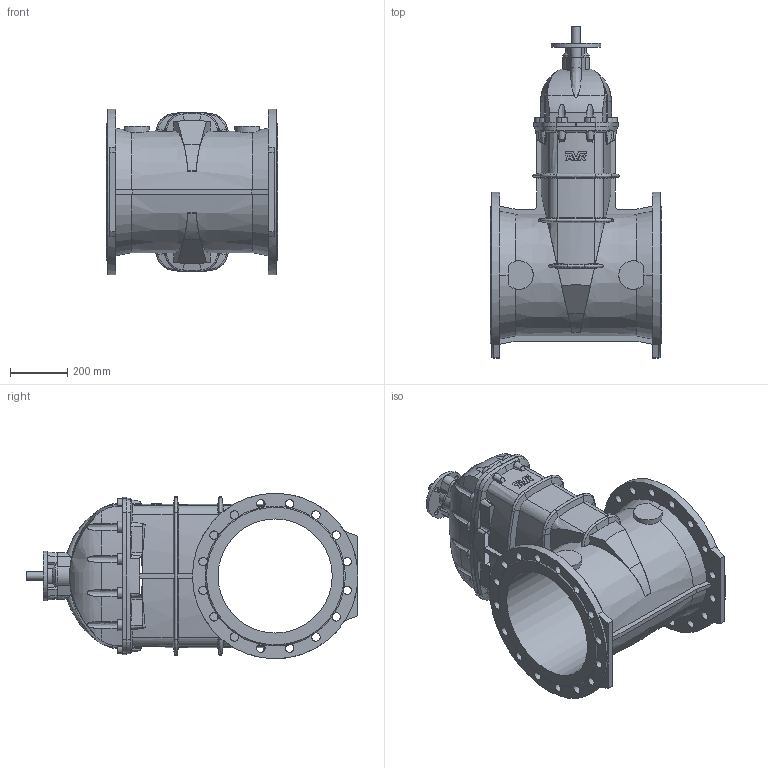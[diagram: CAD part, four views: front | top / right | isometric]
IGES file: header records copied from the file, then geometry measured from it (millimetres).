
Start section: SolidWorks IGES file using analytic representation for surfaces
Global section: file name: D:\Arthur\For Will\Finished\O_15_72_DN400 without AUMA\O_15_72_DN400_00_iges.IGS; native system: SolidWorks 2012; preprocessor: SolidWorks 2012; author: aran; date: 150611.150851; units: millimetre
Bounding box: 600 x 1163 x 580 mm (x, y, z)
Surface area: 3207107.2 mm2 (no closed solid volume)
Topology: 0 solids, 0 shells, 501 faces, 3006 edges, 2950 vertices
Faces by surface type: revolution 322, bspline 179
